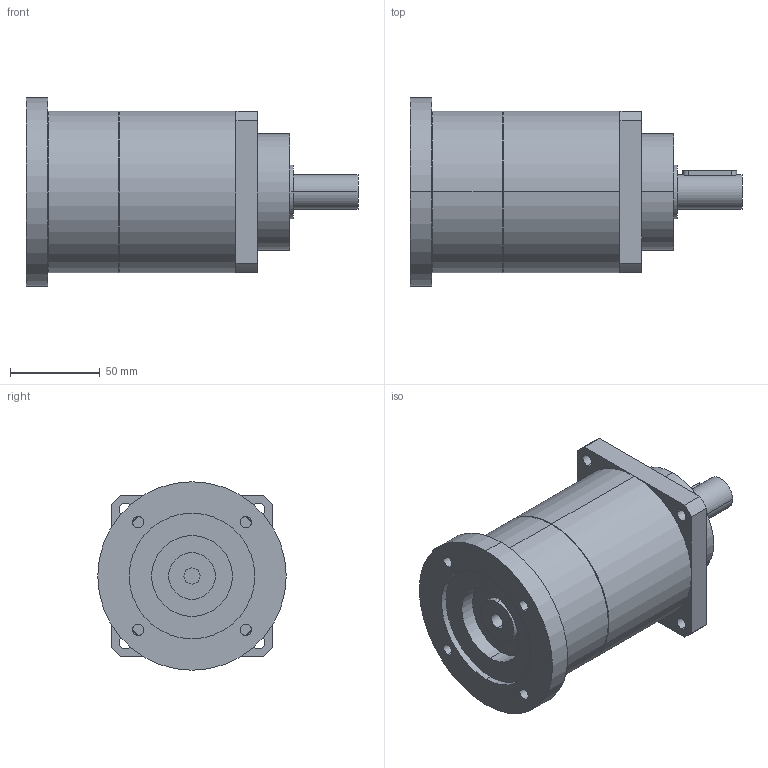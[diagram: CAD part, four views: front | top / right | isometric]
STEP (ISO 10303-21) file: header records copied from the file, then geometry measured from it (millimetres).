
FILE_DESCRIPTION(('CoCreate Modeling STEP Export'),'2;1');
FILE_NAME('GPT90_ig-9-12-16-20-25-28-35-40-50-70-100_19_B5T_9_P04.stp','2015-02-04T11:33:35',(''),(''),'CoCreate Modeling STEP processor for AP214 (Solid Model)','CoCreate Modeling 16.00C 25-Feb-2009 (C) Parametric Technology GmbH','');
FILE_SCHEMA(('AUTOMOTIVE_DESIGN { 1 0 10303 214 1 1 1 1 }'));
Length unit declared in the file: millimetre
Products named in the file (2): GPT90_ig-9-12-16-20-25-28-35-40-50-70-100_19_B5T_9_P04
Assembly tree (1 placements, depth 2):
  GPT90_ig-9-12-16-20-25-28-35-40-50-70-100_19_B5T_9_P04
    GPT90_ig-9-12-16-20-25-28-35-40-50-70-100_19_B5T_9_P04
Bounding box: 185 x 105 x 105 mm (x, y, z)
Volume: 908662.5 mm3; surface area: 70303.5 mm2
Topology: 1 solids, 1 shells, 75 faces, 205 edges, 138 vertices
Faces by surface type: cylinder 44, plane 27, cone 4
Entity records: 2477 total; most frequent: CARTESIAN_POINT 717, ORIENTED_EDGE 410, DIRECTION 294, EDGE_CURVE 205, VERTEX_POINT 138, AXIS2_PLACEMENT_3D 112, EDGE_LOOP 97, FACE_OUTER_BOUND 75
